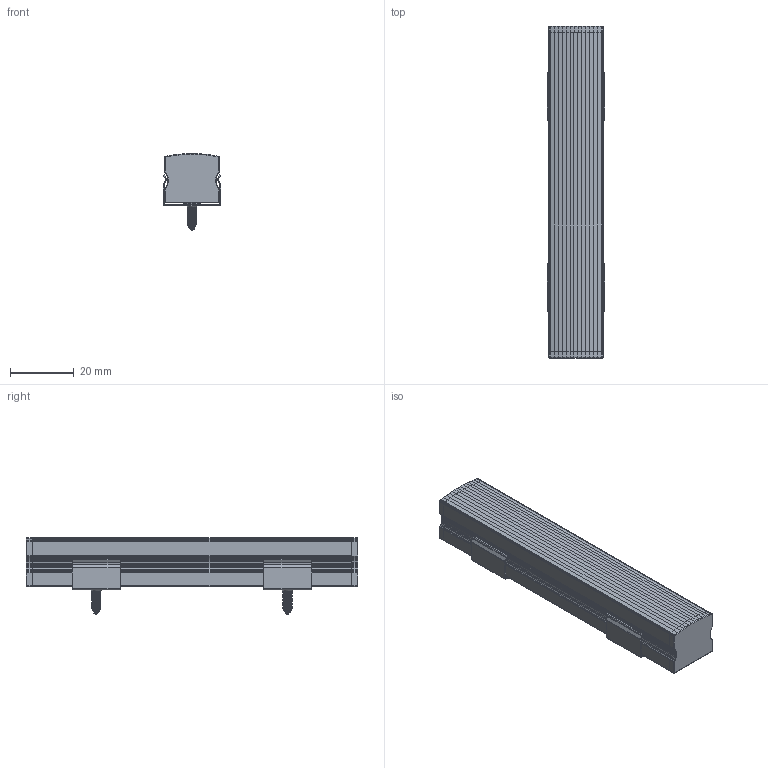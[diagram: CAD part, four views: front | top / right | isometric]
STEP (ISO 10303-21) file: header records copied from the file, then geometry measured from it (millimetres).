
FILE_DESCRIPTION(/* description */ (''),/* implementation_level */ '2;1');
FILE_NAME(/* name */ 'c:\worker\convert-fusion-r02\tmp\job-1\155\output\files\0bb8242c-d0f8-402e-9c84-99144b411c58\b6f9f44b-ecb0-494c-97b7-2cf58856d117.stp',/* time_stamp */ '2022-03-30T12:51:52+00:00',/* author */ (''),/* organization */ (''),/* preprocessor_version */ 'ST-DEVELOPER v18.1',/* originating_system */ 'Autodesk Translation Framework v10.14.0.1471',/* authorisation */ '');
FILE_SCHEMA (('AUTOMOTIVE_DESIGN { 1 0 10303 214 3 1 1 }'));
Length unit declared in the file: millimetre
Products named in the file (8): CHAN-171145; Aluminium Profile; Light Diffuser / Lens; M3x6mm; LED Strip Light; End Cap; End Cap w/ Cable Out; Mounting Bracket
Assembly tree (10 placements, depth 2):
  CHAN-171145
    Aluminium Profile
    Light Diffuser / Lens
    Mounting Bracket  x2
    M3x6mm  x2
    LED Strip Light  x2
    End Cap
    End Cap w/ Cable Out
Bounding box: 18 x 104.1 x 24.09 mm (x, y, z)
Volume: 11891 mm3; surface area: 21624.5 mm2
Topology: 86 solids, 86 shells, 1608 faces, 4010 edges, 2578 vertices
Faces by surface type: plane 1064, cylinder 376, sphere 64, bspline 50, torus 42, cone 12
Full cylindrical faces by diameter (mm): 2.356 x8, 2.927 x14, 3 x2
Entity records: 39242 total; most frequent: CARTESIAN_POINT 9103, ORIENTED_EDGE 6300, DIRECTION 5933, EDGE_CURVE 3150, LINE 2599, VECTOR 2599, VERTEX_POINT 2024, AXIS2_PLACEMENT_3D 1667
